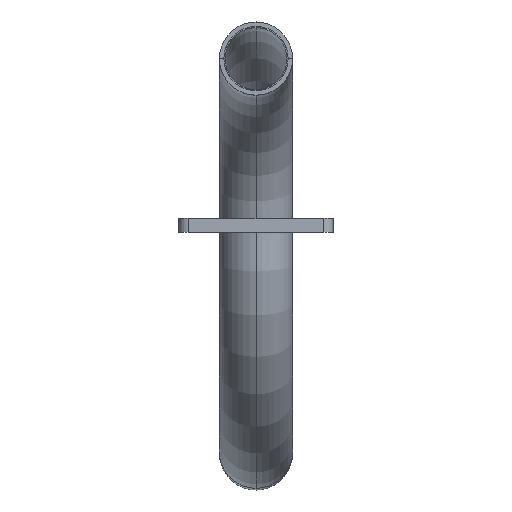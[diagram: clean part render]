
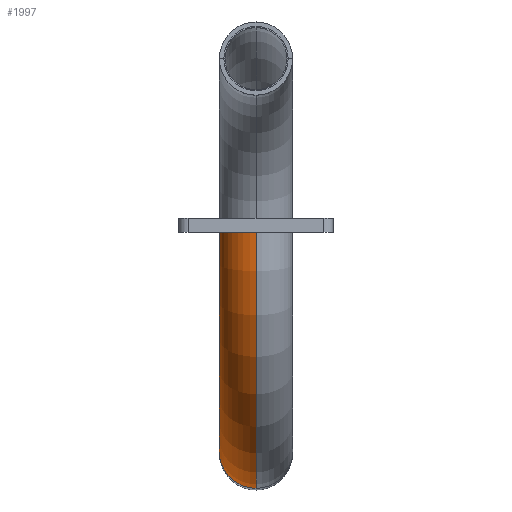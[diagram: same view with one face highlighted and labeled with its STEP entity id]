
A CAD part, front view. The second image highlights one B-rep face of the part: STEP entity #1997.
In plain terms, the highlighted toroidal (fillet/blend) face has major radius 149.352 mm and minor radius 24.13 mm.
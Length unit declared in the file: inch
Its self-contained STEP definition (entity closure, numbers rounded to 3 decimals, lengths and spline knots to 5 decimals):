
#1 = VERTEX_POINT ( 'NONE', #898 ) ;
#5 = AXIS2_PLACEMENT_3D ( 'NONE', #1342, #1145, #1532 ) ;
#148 = EDGE_CURVE ( 'NONE', #1578, #1198, #2008, .T. ) ;
#229 = CARTESIAN_POINT ( 'NONE',  ( 4.375, -53.88, 0. ) ) ;
#244 = ORIENTED_EDGE ( 'NONE', *, *, #148, .T. ) ;
#285 = EDGE_CURVE ( 'NONE', #650, #1, #1438, .T. ) ;
#404 = ORIENTED_EDGE ( 'NONE', *, *, #285, .F. ) ;
#516 = CARTESIAN_POINT ( 'NONE',  ( 4.37581, -54.83, 0. ) ) ;
#540 = CIRCLE ( 'NONE', #1640, 0.95 ) ;
#569 = DIRECTION ( 'NONE',  ( 0., 1., 0. ) ) ;
#650 = VERTEX_POINT ( 'NONE', #1479 ) ;
#716 = DIRECTION ( 'NONE',  ( 0., -1., 0. ) ) ;
#718 = DIRECTION ( 'NONE',  ( 0., 0., 1. ) ) ;
#734 = CARTESIAN_POINT ( 'NONE',  ( 4.37, -48., 0. ) ) ;
#898 = CARTESIAN_POINT ( 'NONE',  ( 4.37419, -52.93, 0. ) ) ;
#913 = EDGE_CURVE ( 'NONE', #1, #1198, #1019, .T. ) ;
#952 = AXIS2_PLACEMENT_3D ( 'NONE', #1857, #1690, #1472 ) ;
#1019 = CIRCLE ( 'NONE', #1743, 0.95 ) ;
#1145 = DIRECTION ( 'NONE',  ( 0., 0., -1. ) ) ;
#1146 = EDGE_CURVE ( 'NONE', #650, #1578, #540, .T. ) ;
#1174 = FACE_OUTER_BOUND ( 'NONE', #2053, .T. ) ;
#1198 = VERTEX_POINT ( 'NONE', #516 ) ;
#1231 = AXIS2_PLACEMENT_3D ( 'NONE', #734, #1717, #569 ) ;
#1342 = CARTESIAN_POINT ( 'NONE',  ( 4.37, -48., 0. ) ) ;
#1362 = DIRECTION ( 'NONE',  ( 0., 0., 1. ) ) ;
#1438 = CIRCLE ( 'NONE', #952, 4.93 ) ;
#1440 = ORIENTED_EDGE ( 'NONE', *, *, #1146, .T. ) ;
#1472 = DIRECTION ( 'NONE',  ( 0., 1., 0. ) ) ;
#1479 = CARTESIAN_POINT ( 'NONE',  ( 9.3, -48., 0. ) ) ;
#1532 = DIRECTION ( 'NONE',  ( -1., 0., 0. ) ) ;
#1538 = DIRECTION ( 'NONE',  ( -1., -0.001, 0. ) ) ;
#1578 = VERTEX_POINT ( 'NONE', #1673 ) ;
#1640 = AXIS2_PLACEMENT_3D ( 'NONE', #1685, #716, #1362 ) ;
#1673 = CARTESIAN_POINT ( 'NONE',  ( 11.2, -48., 0. ) ) ;
#1685 = CARTESIAN_POINT ( 'NONE',  ( 10.25, -48., 0. ) ) ;
#1690 = DIRECTION ( 'NONE',  ( 0., 0., -1. ) ) ;
#1717 = DIRECTION ( 'NONE',  ( 0., 0., -1. ) ) ;
#1743 = AXIS2_PLACEMENT_3D ( 'NONE', #229, #1538, #718 ) ;
#1799 = ORIENTED_EDGE ( 'NONE', *, *, #913, .F. ) ;
#1857 = CARTESIAN_POINT ( 'NONE',  ( 4.37, -48., 0. ) ) ;
#1873 = TOROIDAL_SURFACE ( 'NONE', #5, 5.88, 0.95 ) ;
#1997 = ADVANCED_FACE ( 'NONE', ( #1174 ), #1873, .T. ) ;
#2008 = CIRCLE ( 'NONE', #1231, 6.83 ) ;
#2053 = EDGE_LOOP ( 'NONE', ( #1440, #244, #1799, #404 ) ) ;
